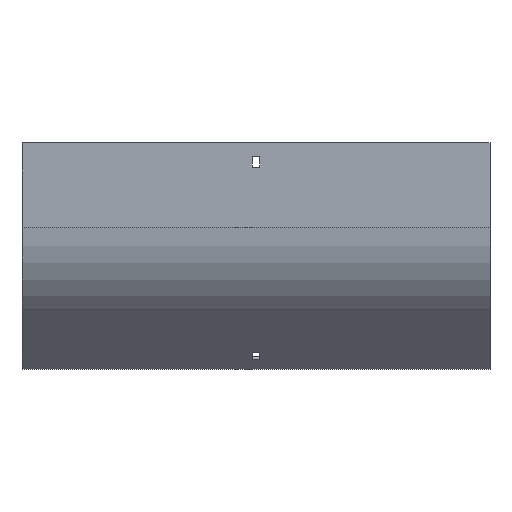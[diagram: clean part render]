
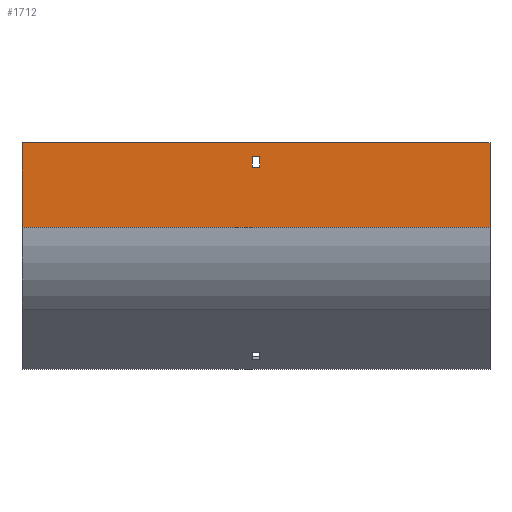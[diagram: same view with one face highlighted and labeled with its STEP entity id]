
A CAD part, front view. The second image highlights one B-rep face of the part: STEP entity #1712.
In plain terms, the highlighted planar face has unit normal (0, -1, 0).
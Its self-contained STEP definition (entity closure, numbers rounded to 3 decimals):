
#88 = DIRECTION ( 'NONE',  ( -1., 0., 0. ) ) ;
#133 = EDGE_CURVE ( 'NONE', #1174, #1874, #1762, .T. ) ;
#167 = VERTEX_POINT ( 'NONE', #929 ) ;
#247 = VECTOR ( 'NONE', #1935, 1000. ) ;
#250 = EDGE_CURVE ( 'NONE', #1649, #1813, #1527, .T. ) ;
#286 = ORIENTED_EDGE ( 'NONE', *, *, #647, .F. ) ;
#312 = ORIENTED_EDGE ( 'NONE', *, *, #1411, .T. ) ;
#324 = DIRECTION ( 'NONE',  ( 0., 0., -1. ) ) ;
#383 = DIRECTION ( 'NONE',  ( -1., 0., 0. ) ) ;
#398 = LINE ( 'NONE', #1125, #1462 ) ;
#403 = DIRECTION ( 'NONE',  ( 0., 1., 0. ) ) ;
#425 = DIRECTION ( 'NONE',  ( 1., 0., 0. ) ) ;
#441 = DIRECTION ( 'NONE',  ( 0., 0., -1. ) ) ;
#518 = VERTEX_POINT ( 'NONE', #1634 ) ;
#534 = EDGE_LOOP ( 'NONE', ( #1211, #876, #1716, #1749 ) ) ;
#543 = VERTEX_POINT ( 'NONE', #802 ) ;
#590 = LINE ( 'NONE', #1595, #1774 ) ;
#647 = EDGE_CURVE ( 'NONE', #518, #543, #1603, .T. ) ;
#690 = VECTOR ( 'NONE', #1559, 1000. ) ;
#702 = VERTEX_POINT ( 'NONE', #1508 ) ;
#774 = EDGE_CURVE ( 'NONE', #1813, #1174, #964, .T. ) ;
#802 = CARTESIAN_POINT ( 'NONE',  ( 202., -104., -73.078 ) ) ;
#848 = FACE_OUTER_BOUND ( 'NONE', #1807, .T. ) ;
#876 = ORIENTED_EDGE ( 'NONE', *, *, #133, .T. ) ;
#908 = EDGE_CURVE ( 'NONE', #702, #167, #1746, .T. ) ;
#929 = CARTESIAN_POINT ( 'NONE',  ( -202., -104., -73.078 ) ) ;
#964 = LINE ( 'NONE', #1567, #690 ) ;
#999 = DIRECTION ( 'NONE',  ( 0., 0., 1. ) ) ;
#1027 = DIRECTION ( 'NONE',  ( 0., 0., 1. ) ) ;
#1037 = ORIENTED_EDGE ( 'NONE', *, *, #908, .T. ) ;
#1099 = CARTESIAN_POINT ( 'NONE',  ( 202., -104., -73.078 ) ) ;
#1107 = AXIS2_PLACEMENT_3D ( 'NONE', #1099, #403, #999 ) ;
#1125 = CARTESIAN_POINT ( 'NONE',  ( 202., -104., -73.078 ) ) ;
#1129 = CARTESIAN_POINT ( 'NONE',  ( 3.25, -104., -12. ) ) ;
#1146 = EDGE_CURVE ( 'NONE', #543, #167, #398, .T. ) ;
#1174 = VERTEX_POINT ( 'NONE', #1884 ) ;
#1177 = CARTESIAN_POINT ( 'NONE',  ( 202., -104., -73.078 ) ) ;
#1211 = ORIENTED_EDGE ( 'NONE', *, *, #774, .T. ) ;
#1257 = PLANE ( 'NONE',  #1107 ) ;
#1322 = CARTESIAN_POINT ( 'NONE',  ( -3.25, -104., -21. ) ) ;
#1411 = EDGE_CURVE ( 'NONE', #518, #702, #1437, .T. ) ;
#1414 = CARTESIAN_POINT ( 'NONE',  ( -3.25, -104., -12. ) ) ;
#1437 = LINE ( 'NONE', #1694, #1701 ) ;
#1462 = VECTOR ( 'NONE', #383, 1000. ) ;
#1468 = ORIENTED_EDGE ( 'NONE', *, *, #1146, .F. ) ;
#1469 = VECTOR ( 'NONE', #1027, 1000. ) ;
#1487 = VECTOR ( 'NONE', #324, 1000. ) ;
#1508 = CARTESIAN_POINT ( 'NONE',  ( -202., -104., 0. ) ) ;
#1527 = LINE ( 'NONE', #1823, #1487 ) ;
#1528 = EDGE_CURVE ( 'NONE', #1874, #1649, #590, .T. ) ;
#1559 = DIRECTION ( 'NONE',  ( -1., 0., 0. ) ) ;
#1567 = CARTESIAN_POINT ( 'NONE',  ( -3.25, -104., -21. ) ) ;
#1595 = CARTESIAN_POINT ( 'NONE',  ( -3.25, -104., -12. ) ) ;
#1603 = LINE ( 'NONE', #1177, #1734 ) ;
#1634 = CARTESIAN_POINT ( 'NONE',  ( 202., -104., 0. ) ) ;
#1649 = VERTEX_POINT ( 'NONE', #1129 ) ;
#1691 = FACE_BOUND ( 'NONE', #534, .T. ) ;
#1694 = CARTESIAN_POINT ( 'NONE',  ( 202., -104., 0. ) ) ;
#1701 = VECTOR ( 'NONE', #88, 1000. ) ;
#1712 = ADVANCED_FACE ( 'NONE', ( #1691, #848 ), #1257, .F. ) ;
#1716 = ORIENTED_EDGE ( 'NONE', *, *, #1528, .T. ) ;
#1733 = CARTESIAN_POINT ( 'NONE',  ( -202., -104., -73.078 ) ) ;
#1734 = VECTOR ( 'NONE', #441, 1000. ) ;
#1746 = LINE ( 'NONE', #1733, #247 ) ;
#1749 = ORIENTED_EDGE ( 'NONE', *, *, #250, .T. ) ;
#1762 = LINE ( 'NONE', #1322, #1469 ) ;
#1774 = VECTOR ( 'NONE', #425, 1000. ) ;
#1807 = EDGE_LOOP ( 'NONE', ( #1037, #1468, #286, #312 ) ) ;
#1813 = VERTEX_POINT ( 'NONE', #1816 ) ;
#1816 = CARTESIAN_POINT ( 'NONE',  ( 3.25, -104., -21. ) ) ;
#1823 = CARTESIAN_POINT ( 'NONE',  ( 3.25, -104., -21. ) ) ;
#1874 = VERTEX_POINT ( 'NONE', #1414 ) ;
#1884 = CARTESIAN_POINT ( 'NONE',  ( -3.25, -104., -21. ) ) ;
#1935 = DIRECTION ( 'NONE',  ( 0., 0., -1. ) ) ;
